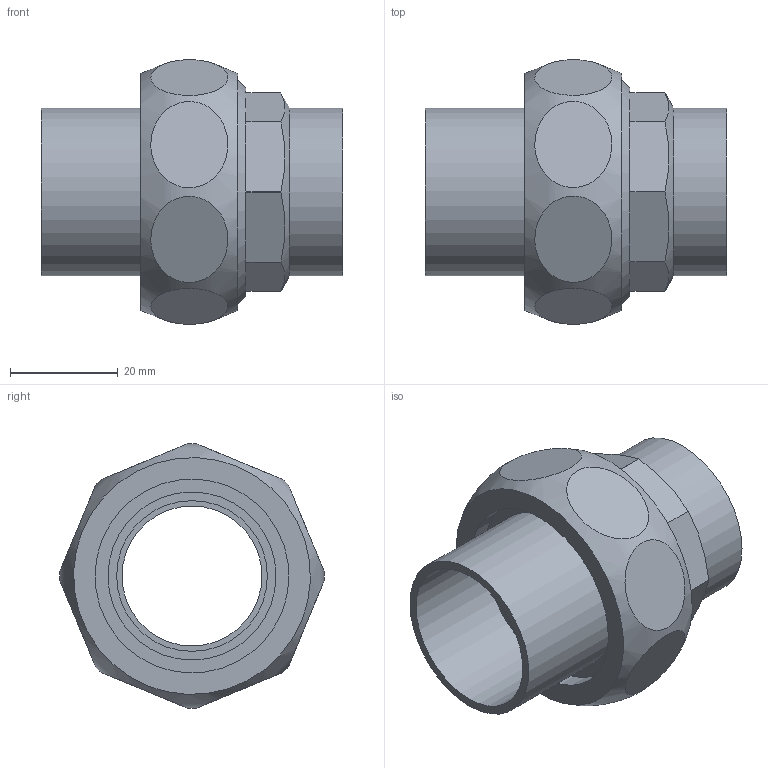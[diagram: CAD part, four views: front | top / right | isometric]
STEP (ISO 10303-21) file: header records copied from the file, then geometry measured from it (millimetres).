
FILE_DESCRIPTION(/* description */ (''),/* implementation_level */ '2;1');
FILE_NAME(/* name */ '\\lg50011\SANHA_LEGNICA\Engineering\Public\RYSUNKI\SANHA POLSKA\4330\inventor\14330_28(3).stp',/* time_stamp */ '2022-06-22T07:28:26+02:00',/* author */ ('gomulka'),/* organization */ (''),/* preprocessor_version */ 'ST-DEVELOPER v19',/* originating_system */ 'Autodesk Inventor 2023',/* authorisation */ '');
FILE_SCHEMA (('AUTOMOTIVE_DESIGN { 1 0 10303 214 3 1 1 }'));
Length unit declared in the file: millimetre
Products named in the file (5): 14330_28(2); R14374_114(0); 1DCU114; 14370_28-114(2); 14372_28-114(1)
Assembly tree (4 placements, depth 2):
  14330_28(2)
    R14374_114(0)
    1DCU114
    14370_28-114(2)
    14372_28-114(1)
Bounding box: 56 x 49.15 x 49.15 mm (x, y, z)
Volume: 28705.6 mm3; surface area: 20417.2 mm2
Topology: 4 solids, 4 shells, 54 faces, 108 edges, 74 vertices
Faces by surface type: plane 29, cylinder 20, cone 4, bspline 1
Full cylindrical faces by diameter (mm): 26 x1, 27 x2, 28 x2, 31.2 x2, 36 x1, 38 x1, 38.5 x1, 38.952 x1, 41.91 x1
Entity records: 2161 total; most frequent: CARTESIAN_POINT 812, DIRECTION 262, ORIENTED_EDGE 216, AXIS2_PLACEMENT_3D 111, EDGE_CURVE 108, EDGE_LOOP 74, VERTEX_POINT 74, FACE_OUTER_BOUND 54
